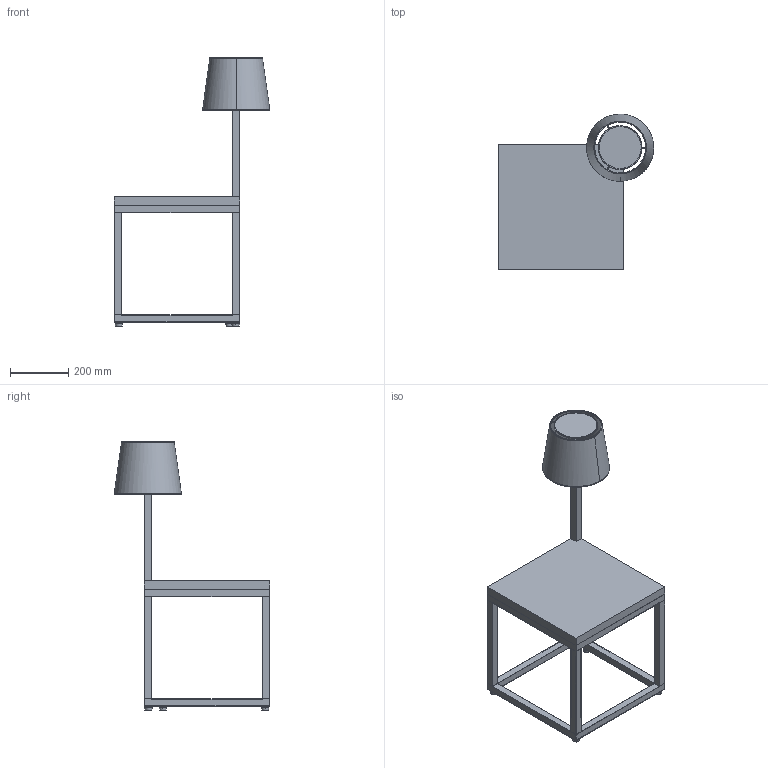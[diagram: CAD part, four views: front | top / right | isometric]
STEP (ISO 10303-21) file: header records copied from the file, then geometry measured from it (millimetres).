
FILE_DESCRIPTION(/* description */ (''),/* implementation_level */ '2;1');
FILE_NAME(/* name */ 'KINOSH~1',/* time_stamp */ '2021-11-26T14:47:05+09:00',/* author */ (''),/* organization */ (''),/* preprocessor_version */ 'ST-DEVELOPER v15',/* originating_system */ '',/* authorisation */ '');
FILE_SCHEMA (('AUTOMOTIVE_DESIGN'));
Length unit declared in the file: millimetre
Products named in the file (1): Document
Bounding box: 532.43 x 532.5 x 920 mm (x, y, z)
Volume: 6334977.7 mm3; surface area: 1545732.1 mm2
Topology: 12 solids, 17 shells, 414 faces, 1076 edges, 640 vertices
Faces by surface type: bspline 258, plane 156
Entity records: 21083 total; most frequent: CARTESIAN_POINT 14971, ORIENTED_EDGE 2082, EDGE_CURVE 1048, VERTEX_POINT 640, B_SPLINE_CURVE_WITH_KNOTS 524, EDGE_LOOP 429, ADVANCED_FACE 414, FACE_OUTER_BOUND 414
